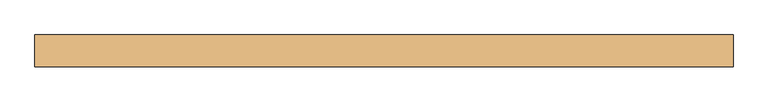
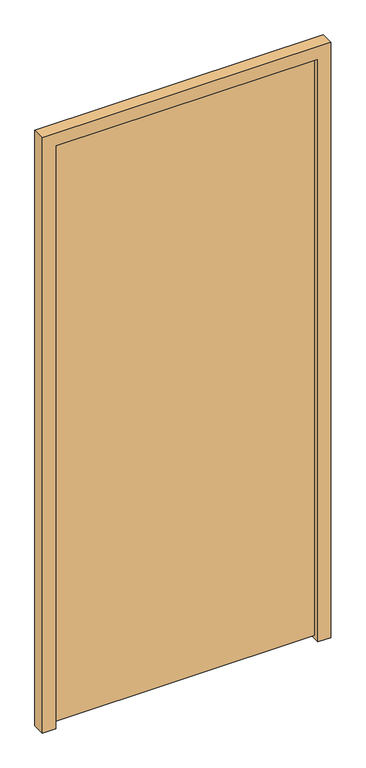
"""IFC4 building model written with IfcOpenShell, lengths in millimetres: door geometry, Dr_Дверь_v2.1 : ДВПС Оп Г 24-11,5 Л EI30."""

import ifcopenshell
import ifcopenshell.guid

model = None  # the IFC model being written
_history = None  # IfcOwnerHistory: only IFC2X3 demands one
_inside = {}  # id of a spatial element -> (the spatial element, [elements in it])
_under = {}  # id of a project, library or spatial element -> (it, [spatial elements below it])
_declared = {}  # id of a project -> (the project, [libraries it declares])
_typed = {}  # id of a type object -> (the type object, [elements of that type])
_made_of = {}  # id of a material, layer set ... -> (it, [elements and type objects made of it])


def new_model(schema):
    """Start an empty IFC model of exactly this schema.

    Asked for "IFC4X3", IfcOpenShell would pick the latest addendum, in which some entities
    have other attributes; the version numbers below select the first issue.
    IFC2X3 requires an IfcOwnerHistory on every rooted entity: one is made here for all.
    """
    global model, _history
    if schema == "IFC4X3":
        model = ifcopenshell.file(schema_version=(4, 3, 0, 0))
    else:
        model = ifcopenshell.file(schema=schema)
    _inside.clear()
    _under.clear()
    _declared.clear()
    _typed.clear()
    _made_of.clear()
    _history = None
    if model.schema == "IFC2X3":
        org = make("IfcOrganization", Name="unknown")
        user = make(
            "IfcPersonAndOrganization",
            ThePerson=make("IfcPerson", FamilyName="unknown"),
            TheOrganization=org,
        )
        app = make(
            "IfcApplication",
            ApplicationDeveloper=org,
            Version="unknown",
            ApplicationFullName="unknown",
            ApplicationIdentifier="unknown",
        )
        _history = make(
            "IfcOwnerHistory",
            OwningUser=user,
            OwningApplication=app,
            ChangeAction="ADDED",
            CreationDate=0,
        )
    return model


def make(cls, **values):
    """One entity of the class cls with the attributes given. An attribute that is None is left unset."""
    return model.create_entity(
        cls, **{name: value for name, value in values.items() if value is not None}
    )


def rooted(cls, **values):
    """An entity with a GlobalId (a new one), such as an element, a storey or a relation."""
    return make(cls, GlobalId=ifcopenshell.guid.new(), OwnerHistory=_history, **values)


def si_unit(unit_type, name, prefix=None):
    """IfcSIUnit, for example si_unit("LENGTHUNIT", "METRE", prefix="MILLI")."""
    return make("IfcSIUnit", UnitType=unit_type, Prefix=prefix, Name=name)


def assignment(units):
    """IfcUnitAssignment: the units of a project."""
    return None if units is None else make("IfcUnitAssignment", Units=units)


def point(xyz):
    """IfcCartesianPoint."""
    return None if xyz is None else make("IfcCartesianPoint", Coordinates=xyz)


def direction(xyz):
    """IfcDirection."""
    return None if xyz is None else make("IfcDirection", DirectionRatios=xyz)


def frame(location, z_axis=None, x_axis=None):
    """IfcAxis2Placement3D, a coordinate frame: its origin and axes. An axis left out is left unset."""
    return make(
        "IfcAxis2Placement3D",
        Location=point(location),
        Axis=direction(z_axis),
        RefDirection=direction(x_axis),
    )


def origin():
    """The frame at (0, 0, 0) with its axes left unset."""
    return frame((0.0, 0.0, 0.0))


def place(relative_to, where):
    """IfcLocalPlacement: puts the frame where relative to a parent placement (None: the world)."""
    return make(
        "IfcLocalPlacement", PlacementRelTo=relative_to, RelativePlacement=where
    )


def context(
    kind, dimensions, precision=None, world=None, true_north=None, identifier=None
):
    """IfcGeometricRepresentationContext, for example the 3D "Model" context."""
    return make(
        "IfcGeometricRepresentationContext",
        ContextIdentifier=identifier,
        ContextType=kind,
        CoordinateSpaceDimension=dimensions,
        Precision=precision,
        WorldCoordinateSystem=world,
        TrueNorth=true_north,
    )


def project(units=None, contexts=None):
    """IfcProject with its units and contexts."""
    return rooted(
        "IfcProject",
        Name="project",
        RepresentationContexts=contexts,
        UnitsInContext=assignment(units),
    )


def spatial(cls, under=None, at=None, **own):
    """A site, building, storey or space (cls), placed at a placement, below another one or the project."""
    s = rooted(cls, ObjectPlacement=at, **own)
    if under is not None:
        _under.setdefault(under.id(), (under, []))[1].append(s)
    return s


def polyline(points):
    """IfcPolyline through the points."""
    return make("IfcPolyline", Points=[point(p) for p in points])


def outline(outer, holes=None, kind="AREA"):
    """IfcArbitraryClosedProfileDef: a profile drawn as a closed curve; with holes, ...WithVoids."""
    if holes is None:
        return make("IfcArbitraryClosedProfileDef", ProfileType=kind, OuterCurve=outer)
    return make(
        "IfcArbitraryProfileDefWithVoids",
        ProfileType=kind,
        OuterCurve=outer,
        InnerCurves=holes,
    )


def extrude(swept, where, along, depth):
    """IfcExtrudedAreaSolid: the profile swept, set in the frame where, extruded along a direction by depth."""
    return make(
        "IfcExtrudedAreaSolid",
        SweptArea=swept,
        Position=where,
        ExtrudedDirection=direction(along),
        Depth=depth,
    )


def shape(context_of_items, identifier, shape_type, items):
    """IfcShapeRepresentation: the items that make up one representation, for example the "Body"."""
    return make(
        "IfcShapeRepresentation",
        ContextOfItems=context_of_items,
        RepresentationIdentifier=identifier,
        RepresentationType=shape_type,
        Items=items,
    )


def source(mapping_origin, context_of_items, identifier, shape_type, items):
    """IfcRepresentationMap: a shape defined once, which mapped items show again and again."""
    return make(
        "IfcRepresentationMap",
        MappingOrigin=mapping_origin,
        MappedRepresentation=shape(context_of_items, identifier, shape_type, items),
    )


def transform(
    local_origin,
    x_axis=None,
    y_axis=None,
    z_axis=None,
    scale=None,
    scale2=None,
    scale3=None,
    uniform=True,
):
    """IfcCartesianTransformationOperator3D, or its non-uniform kind. x_axis, y_axis, z_axis: its Axis1, 2, 3."""
    if uniform:
        return make(
            "IfcCartesianTransformationOperator3D",
            Axis1=direction(x_axis),
            Axis2=direction(y_axis),
            LocalOrigin=point(local_origin),
            Scale=scale,
            Axis3=direction(z_axis),
        )
    return make(
        "IfcCartesianTransformationOperator3DnonUniform",
        Axis1=direction(x_axis),
        Axis2=direction(y_axis),
        LocalOrigin=point(local_origin),
        Scale=scale,
        Axis3=direction(z_axis),
        Scale2=scale2,
        Scale3=scale3,
    )


def mapped(mapping_source, mapping_target):
    """IfcMappedItem: shows the shape of a source again, moved by a transform."""
    return make(
        "IfcMappedItem", MappingSource=mapping_source, MappingTarget=mapping_target
    )


def made_of(thing, what):
    """Note that an element or type object is made of a material, layer set ...; save() writes the relation."""
    if what is not None:
        _made_of.setdefault(what.id(), (what, []))[1].append(thing)
    return thing


def element(
    cls,
    number,
    at=None,
    inside=None,
    cuts=None,
    type_object=None,
    material=None,
    context=None,
    identifier="Body",
    shape_type=None,
    held_by="IfcProductDefinitionShape",
    body=None,
    shapes=None,
    **own,
):
    """One element of the class cls, such as IfcWall. Its Tag is "e" and its number.

    at: its placement. inside: the storey or other place that contains it. cuts: it is an
    opening in that element (IfcRelVoidsElement). A single representation is given by context,
    identifier, shape_type and body (its items); several are given by shapes. held_by: the class
    of the entity that holds the representations. save() writes the other relations.
    """
    e = rooted(cls, Tag="e%d" % number, ObjectPlacement=at, **own)
    if body is not None:
        shapes = [shape(context, identifier, shape_type, body)]
    if shapes is not None:
        e.Representation = make(held_by, Representations=shapes)
    if inside is not None:
        _inside.setdefault(inside.id(), (inside, []))[1].append(e)
    if cuts is not None:
        rooted(
            "IfcRelVoidsElement", RelatingBuildingElement=cuts, RelatedOpeningElement=e
        )
    if type_object is not None:
        _typed.setdefault(type_object.id(), (type_object, []))[1].append(e)
    return made_of(e, material)


def aggregate(whole, parts):
    """IfcRelAggregates: a whole, such as a stair, and the parts it consists of."""
    return rooted("IfcRelAggregates", RelatingObject=whole, RelatedObjects=parts)


def save(model, path):
    """Write the relations noted so far, then the file.

    IfcRelAggregates (storeys below a building ...), IfcRelContainedInSpatialStructure (elements
    in a storey), IfcRelDefinesByType, IfcRelAssociatesMaterial and IfcRelDeclares: one each for
    every whole, place, type object, material and project.
    """
    for whole, parts in _under.values():
        aggregate(whole, parts)
    for where, things in _inside.values():
        rooted(
            "IfcRelContainedInSpatialStructure",
            RelatedElements=things,
            RelatingStructure=where,
        )
    for kind, things in _typed.values():
        rooted("IfcRelDefinesByType", RelatedObjects=things, RelatingType=kind)
    for what, things in _made_of.values():
        rooted("IfcRelAssociatesMaterial", RelatedObjects=things, RelatingMaterial=what)
    for by, libraries in _declared.values():
        rooted("IfcRelDeclares", RelatingContext=by, RelatedDefinitions=libraries)
    model.write(path)


def door_73803761(model_context):
    return source(origin(), model_context, "Body", "SweptSolid", [
        extrude(outline(polyline([(0.0, -425.0), (0.0, -375.0), (2350.0, -375.0), (2350.0, 625.0), (0.0, 625.0), (0.0, 675.0), (2400.0, 675.0), (2400.0, -425.0), (0.0, -425.0)])), frame((0.0, 50.0, 0.0), z_axis=(0.0, 1.0, 0.0), x_axis=(0.0, 0.0, 1.0)), (0.0, 0.0, 1.0), 50.0),
        extrude(outline(polyline([(-375.0, 70.0), (-375.0, 100.0), (625.0, 100.0), (625.0, 70.0), (-375.0, 70.0)])), frame((0.0, 0.0, 14.0), z_axis=(0.0, 0.0, 1.0), x_axis=(1.0, 0.0, 0.0)), (0.0, 0.0, 1.0), 2336.0),
    ])


if __name__ == "__main__":
    model = new_model("IFC4")
    model_context = context("Model", 3, world=origin())
    ifc_project = project(units=[si_unit("LENGTHUNIT", "METRE", prefix="MILLI")], contexts=[model_context])
    site = spatial("IfcSite", under=ifc_project)
    building = spatial("IfcBuilding", under=site)
    placement = place(None, origin())
    door_shape = door_73803761(model_context)
    element("IfcDoor", 1, ObjectType="Dr_Дверь_v2.1 : ДВПС Оп Г 24-11,5 Л EI30", at=placement, inside=building, context=model_context, shape_type="MappedRepresentation", body=[
        mapped(door_shape, transform((0.0, 0.0, 0.0), x_axis=(1.0, 0.0, 0.0), y_axis=(0.0, 1.0, 0.0), z_axis=(0.0, 0.0, 1.0))),
    ])
    save(model, "model.ifc")
